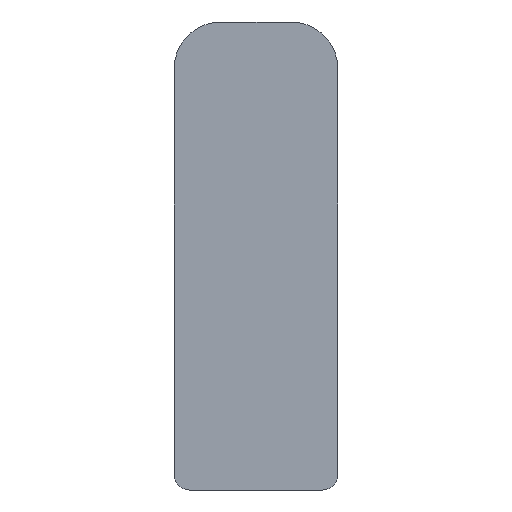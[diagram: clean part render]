
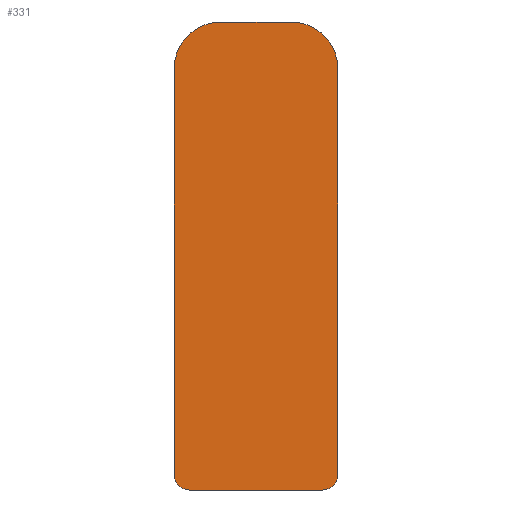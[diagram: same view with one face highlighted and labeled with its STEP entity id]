
A CAD part, left-side view. The second image highlights one B-rep face of the part: STEP entity #331.
In plain terms, the highlighted planar face has unit normal (-1, 0, 0).
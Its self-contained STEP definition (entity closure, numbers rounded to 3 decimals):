
#1 = LINE ( 'NONE', #299, #7 ) ;
#7 = VECTOR ( 'NONE', #298, 1000. ) ;
#19 = VECTOR ( 'NONE', #307, 1000. ) ;
#23 = FACE_OUTER_BOUND ( 'NONE', #90, .T. ) ;
#32 = CIRCLE ( 'NONE', #159, 3. ) ;
#39 = CIRCLE ( 'NONE', #73, 1. ) ;
#44 = VECTOR ( 'NONE', #282, 1000. ) ;
#45 = LINE ( 'NONE', #283, #44 ) ;
#49 = LINE ( 'NONE', #308, #19 ) ;
#50 = CIRCLE ( 'NONE', #72, 1. ) ;
#63 = AXIS2_PLACEMENT_3D ( 'NONE', #214, #213, #212 ) ;
#72 = AXIS2_PLACEMENT_3D ( 'NONE', #291, #289, #288 ) ;
#73 = AXIS2_PLACEMENT_3D ( 'NONE', #276, #274, #273 ) ;
#90 = EDGE_LOOP ( 'NONE', ( #103, #104, #105, #106, #107, #108, #109, #110 ) ) ;
#103 = ORIENTED_EDGE ( 'NONE', *, *, #142, .T. ) ;
#104 = ORIENTED_EDGE ( 'NONE', *, *, #143, .T. ) ;
#105 = ORIENTED_EDGE ( 'NONE', *, *, #149, .T. ) ;
#106 = ORIENTED_EDGE ( 'NONE', *, *, #156, .T. ) ;
#107 = ORIENTED_EDGE ( 'NONE', *, *, #161, .T. ) ;
#108 = ORIENTED_EDGE ( 'NONE', *, *, #164, .T. ) ;
#109 = ORIENTED_EDGE ( 'NONE', *, *, #167, .T. ) ;
#110 = ORIENTED_EDGE ( 'NONE', *, *, #151, .T. ) ;
#127 = LINE ( 'NONE', #211, #128 ) ;
#128 = VECTOR ( 'NONE', #207, 1000. ) ;
#132 = CIRCLE ( 'NONE', #150, 3. ) ;
#142 = EDGE_CURVE ( 'NONE', #323, #269, #132, .T. ) ;
#143 = EDGE_CURVE ( 'NONE', #269, #263, #127, .T. ) ;
#149 = EDGE_CURVE ( 'NONE', #263, #251, #32, .T. ) ;
#150 = AXIS2_PLACEMENT_3D ( 'NONE', #221, #218, #215 ) ;
#151 = EDGE_CURVE ( 'NONE', #275, #323, #49, .T. ) ;
#156 = EDGE_CURVE ( 'NONE', #251, #312, #1, .T. ) ;
#159 = AXIS2_PLACEMENT_3D ( 'NONE', #313, #311, #310 ) ;
#161 = EDGE_CURVE ( 'NONE', #312, #304, #50, .T. ) ;
#164 = EDGE_CURVE ( 'NONE', #304, #297, #45, .T. ) ;
#167 = EDGE_CURVE ( 'NONE', #297, #275, #39, .T. ) ;
#207 = DIRECTION ( 'NONE',  ( 0., 1., 0. ) ) ;
#211 = CARTESIAN_POINT ( 'NONE',  ( -306.25, -2.25, 30. ) ) ;
#212 = DIRECTION ( 'NONE',  ( 0., 0., 1. ) ) ;
#213 = DIRECTION ( 'NONE',  ( -1., 0., 0. ) ) ;
#214 = CARTESIAN_POINT ( 'NONE',  ( -306.25, -2.25, 27. ) ) ;
#215 = DIRECTION ( 'NONE',  ( 0., 0., 1. ) ) ;
#216 = PLANE ( 'NONE',  #63 ) ;
#218 = DIRECTION ( 'NONE',  ( -1., 0., 0. ) ) ;
#221 = CARTESIAN_POINT ( 'NONE',  ( -306.25, -2.25, 27. ) ) ;
#242 = CARTESIAN_POINT ( 'NONE',  ( -306.25, -5.25, 27. ) ) ;
#245 = CARTESIAN_POINT ( 'NONE',  ( -306.25, 5.25, 1. ) ) ;
#249 = CARTESIAN_POINT ( 'NONE',  ( -306.25, 4.25, 0. ) ) ;
#251 = VERTEX_POINT ( 'NONE', #259 ) ;
#252 = CARTESIAN_POINT ( 'NONE',  ( -306.25, -4.25, 0. ) ) ;
#253 = CARTESIAN_POINT ( 'NONE',  ( -306.25, -5.25, 1. ) ) ;
#255 = CARTESIAN_POINT ( 'NONE',  ( -306.25, -2.25, 30. ) ) ;
#256 = CARTESIAN_POINT ( 'NONE',  ( -306.25, 2.25, 30. ) ) ;
#259 = CARTESIAN_POINT ( 'NONE',  ( -306.25, 5.25, 27. ) ) ;
#263 = VERTEX_POINT ( 'NONE', #256 ) ;
#269 = VERTEX_POINT ( 'NONE', #255 ) ;
#273 = DIRECTION ( 'NONE',  ( 0., 0., -1. ) ) ;
#274 = DIRECTION ( 'NONE',  ( -1., 0., 0. ) ) ;
#275 = VERTEX_POINT ( 'NONE', #253 ) ;
#276 = CARTESIAN_POINT ( 'NONE',  ( -306.25, -4.25, 1. ) ) ;
#282 = DIRECTION ( 'NONE',  ( 0., -1., 0. ) ) ;
#283 = CARTESIAN_POINT ( 'NONE',  ( -306.25, -4.25, 0. ) ) ;
#288 = DIRECTION ( 'NONE',  ( 0., 0., -1. ) ) ;
#289 = DIRECTION ( 'NONE',  ( -1., 0., 0. ) ) ;
#291 = CARTESIAN_POINT ( 'NONE',  ( -306.25, 4.25, 1. ) ) ;
#297 = VERTEX_POINT ( 'NONE', #252 ) ;
#298 = DIRECTION ( 'NONE',  ( 0., 0., -1. ) ) ;
#299 = CARTESIAN_POINT ( 'NONE',  ( -306.25, 5.25, 1. ) ) ;
#304 = VERTEX_POINT ( 'NONE', #249 ) ;
#307 = DIRECTION ( 'NONE',  ( 0., 0., 1. ) ) ;
#308 = CARTESIAN_POINT ( 'NONE',  ( -306.25, -5.25, 1. ) ) ;
#310 = DIRECTION ( 'NONE',  ( 0., 0., -1. ) ) ;
#311 = DIRECTION ( 'NONE',  ( -1., 0., 0. ) ) ;
#312 = VERTEX_POINT ( 'NONE', #245 ) ;
#313 = CARTESIAN_POINT ( 'NONE',  ( -306.25, 2.25, 27. ) ) ;
#323 = VERTEX_POINT ( 'NONE', #242 ) ;
#331 = ADVANCED_FACE ( 'NONE', ( #23 ), #216, .T. ) ;
